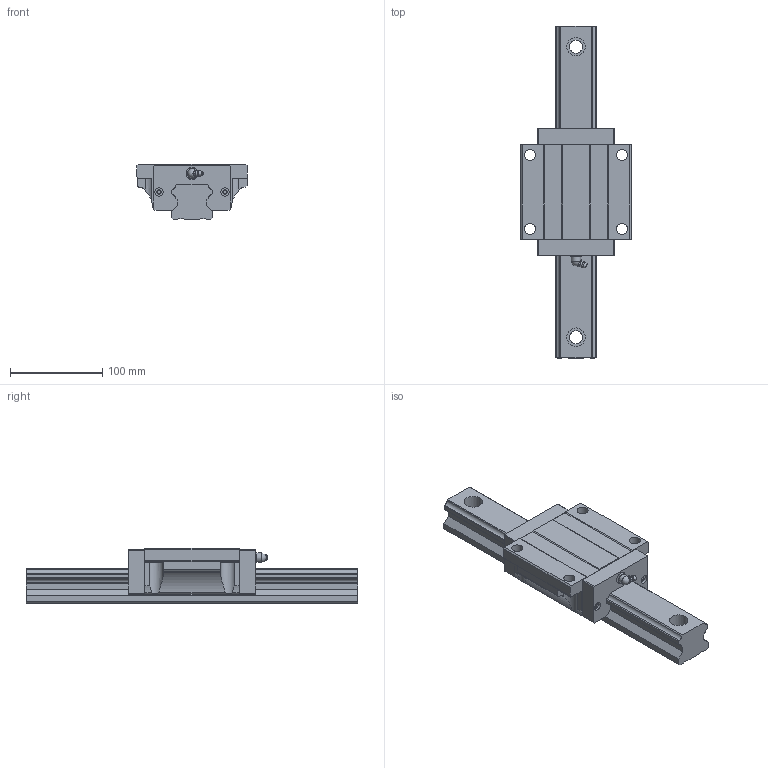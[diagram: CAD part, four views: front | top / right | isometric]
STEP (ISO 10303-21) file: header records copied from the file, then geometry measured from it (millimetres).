
FILE_DESCRIPTION(/* description */ (''),/* implementation_level */ '2;1');
FILE_NAME(/* name */ 'MSA45E2',/* time_stamp */ '2003-12-27T16:21:14+08:00',/* author */ (''),/* organization */ (''),/* preprocessor_version */ 'ST-DEVELOPER v9',/* originating_system */ '',/* authorisation */ '');
FILE_SCHEMA (('CONFIG_CONTROL_DESIGN'));
Length unit declared in the file: millimetre
Products named in the file (1): zircC7DFjm5k
Bounding box: 120 x 360 x 60 mm (x, y, z)
Volume: 1005241.2 mm3; surface area: 133764.1 mm2
Topology: 3 solids, 3 shells, 191 faces, 506 edges, 335 vertices
Faces by surface type: plane 135, cylinder 45, torus 7, sphere 2, cone 1, bspline 1
Full cylindrical faces by diameter (mm): 4.5 x4, 9 x4, 10 x1, 12 x4, 13 x2, 14 x4, 20 x4
Entity records: 5987 total; most frequent: CARTESIAN_POINT 1226, ORIENTED_EDGE 948, DIRECTION 930, EDGE_CURVE 474, LINE 338, VECTOR 338, VERTEX_POINT 330, AXIS2_PLACEMENT_3D 296
